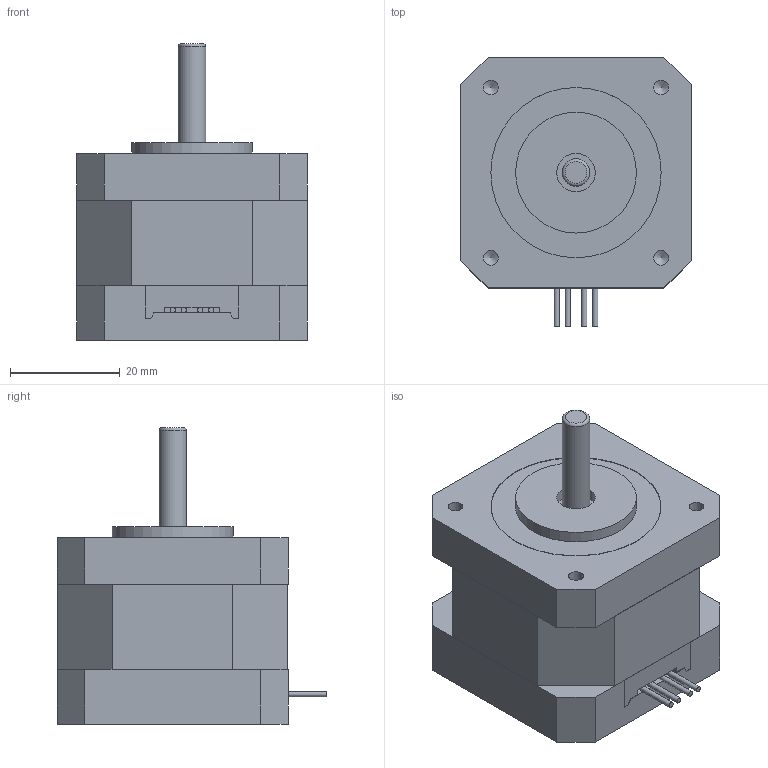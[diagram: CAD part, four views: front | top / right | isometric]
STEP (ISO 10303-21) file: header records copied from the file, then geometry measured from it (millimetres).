
FILE_DESCRIPTION(/* description */ (''),/* implementation_level */ '2;1');
FILE_NAME(/* name */ 'SST42C1065.stp',/* time_stamp */ '2018-08-13T09:21:58+08:00',/* author */ (''),/* organization */ (''),/* preprocessor_version */ 'ST-DEVELOPER v11',/* originating_system */ 'SIEMENS UGS NX 6.0',/* authorisation */ '');
FILE_SCHEMA (('CONFIG_CONTROL_DESIGN'));
Length unit declared in the file: millimetre
Products named in the file (1): SST42C1065
Bounding box: 42 x 49 x 54 mm (x, y, z)
Volume: 56596 mm3; surface area: 10095.8 mm2
Topology: 5 solids, 6 shells, 145 faces, 350 edges, 234 vertices
Faces by surface type: plane 115, cylinder 21, cone 8, torus 1
Full cylindrical faces by diameter (mm): 1.001 x1, 1.003 x1, 1.006 x1, 1.007 x1, 2.7 x4, 4.414 x4, 5 x3, 7 x3, 8.5 x1, 22 x1, 31 x1
Entity records: 3976 total; most frequent: CARTESIAN_POINT 670, DIRECTION 642, ORIENTED_EDGE 606, EDGE_CURVE 303, LINE 256, VECTOR 256, VERTEX_POINT 221, AXIS2_PLACEMENT_3D 193
